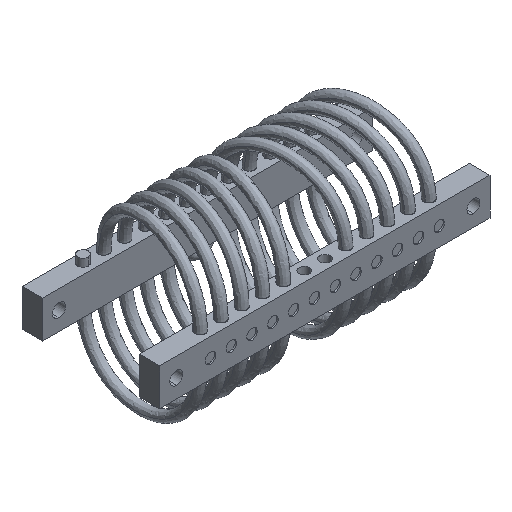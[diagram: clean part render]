
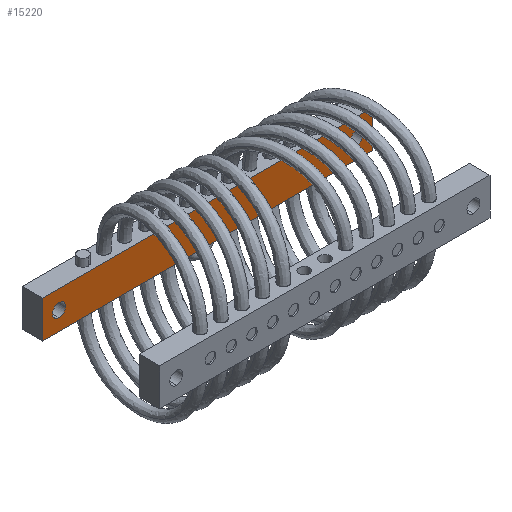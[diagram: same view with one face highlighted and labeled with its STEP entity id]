
A CAD part, isometric view. The second image highlights one B-rep face of the part: STEP entity #15220.
In plain terms, the highlighted planar face has unit normal (0, -1, 0).
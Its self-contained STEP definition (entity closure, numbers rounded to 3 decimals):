
#244 = AXIS2_PLACEMENT_3D ( 'NONE', #11301, #1003, #13001 ) ;
#262 = VERTEX_POINT ( 'NONE', #2598 ) ;
#418 = ORIENTED_EDGE ( 'NONE', *, *, #2057, .T. ) ;
#940 = FACE_OUTER_BOUND ( 'NONE', #12415, .T. ) ;
#1003 = DIRECTION ( 'NONE',  ( 0., 1., 0. ) ) ;
#1462 = EDGE_CURVE ( 'NONE', #1847, #2717, #13656, .T. ) ;
#1552 = EDGE_LOOP ( 'NONE', ( #16844, #418 ) ) ;
#1735 = VERTEX_POINT ( 'NONE', #16468 ) ;
#1764 = ORIENTED_EDGE ( 'NONE', *, *, #17929, .T. ) ;
#1847 = VERTEX_POINT ( 'NONE', #9549 ) ;
#2057 = EDGE_CURVE ( 'NONE', #19018, #262, #13375, .T. ) ;
#2533 = PLANE ( 'NONE',  #7488 ) ;
#2598 = CARTESIAN_POINT ( 'NONE',  ( 57.15, 18.6, 2.5 ) ) ;
#2717 = VERTEX_POINT ( 'NONE', #20186 ) ;
#2764 = ORIENTED_EDGE ( 'NONE', *, *, #19378, .T. ) ;
#3670 = ORIENTED_EDGE ( 'NONE', *, *, #17724, .T. ) ;
#4398 = CARTESIAN_POINT ( 'NONE',  ( 63.5, 18.6, -7.15 ) ) ;
#4616 = EDGE_CURVE ( 'NONE', #2717, #1735, #8136, .T. ) ;
#4751 = ORIENTED_EDGE ( 'NONE', *, *, #17348, .T. ) ;
#4944 = CARTESIAN_POINT ( 'NONE',  ( -57.15, 18.6, 0. ) ) ;
#4986 = AXIS2_PLACEMENT_3D ( 'NONE', #4944, #16934, #6686 ) ;
#5076 = VECTOR ( 'NONE', #9059, 1000. ) ;
#5293 = CARTESIAN_POINT ( 'NONE',  ( -57.15, 18.6, -2.5 ) ) ;
#5429 = CARTESIAN_POINT ( 'NONE',  ( 63.5, 18.6, 7.15 ) ) ;
#5598 = VECTOR ( 'NONE', #20497, 1000. ) ;
#6245 = DIRECTION ( 'NONE',  ( 0., 1., 0. ) ) ;
#6532 = DIRECTION ( 'NONE',  ( 0., 1., 0. ) ) ;
#6686 = DIRECTION ( 'NONE',  ( 0., 0., 1. ) ) ;
#6774 = VERTEX_POINT ( 'NONE', #5293 ) ;
#6885 = CIRCLE ( 'NONE', #12487, 2.5 ) ;
#7161 = DIRECTION ( 'NONE',  ( -1., 0., 0. ) ) ;
#7488 = AXIS2_PLACEMENT_3D ( 'NONE', #11099, #7707, #19706 ) ;
#7616 = CARTESIAN_POINT ( 'NONE',  ( 57.15, 18.6, -2.5 ) ) ;
#7707 = DIRECTION ( 'NONE',  ( 0., 1., 0. ) ) ;
#7785 = DIRECTION ( 'NONE',  ( -1., 0., 0. ) ) ;
#8136 = LINE ( 'NONE', #9592, #17247 ) ;
#8524 = LINE ( 'NONE', #5429, #12569 ) ;
#9059 = DIRECTION ( 'NONE',  ( 0., 0., -1. ) ) ;
#9544 = FACE_BOUND ( 'NONE', #1552, .T. ) ;
#9549 = CARTESIAN_POINT ( 'NONE',  ( 63.5, 18.6, 7.15 ) ) ;
#9592 = CARTESIAN_POINT ( 'NONE',  ( 63.5, 18.6, -7.15 ) ) ;
#10152 = LINE ( 'NONE', #17036, #5598 ) ;
#10390 = CIRCLE ( 'NONE', #244, 2.5 ) ;
#11099 = CARTESIAN_POINT ( 'NONE',  ( 63.5, 18.6, -7.15 ) ) ;
#11301 = CARTESIAN_POINT ( 'NONE',  ( -57.15, 18.6, 0. ) ) ;
#12415 = EDGE_LOOP ( 'NONE', ( #4751, #18964, #15745, #3670 ) ) ;
#12487 = AXIS2_PLACEMENT_3D ( 'NONE', #16491, #6245, #18203 ) ;
#12569 = VECTOR ( 'NONE', #7161, 1000. ) ;
#13001 = DIRECTION ( 'NONE',  ( 0., 0., 1. ) ) ;
#13375 = CIRCLE ( 'NONE', #21016, 2.5 ) ;
#13656 = LINE ( 'NONE', #4398, #5076 ) ;
#14078 = FACE_BOUND ( 'NONE', #16837, .T. ) ;
#14331 = VERTEX_POINT ( 'NONE', #17098 ) ;
#15220 = ADVANCED_FACE ( 'NONE', ( #9544, #14078, #940 ), #2533, .F. ) ;
#15745 = ORIENTED_EDGE ( 'NONE', *, *, #1462, .F. ) ;
#16043 = CIRCLE ( 'NONE', #4986, 2.5 ) ;
#16468 = CARTESIAN_POINT ( 'NONE',  ( -63.5, 18.6, -7.15 ) ) ;
#16491 = CARTESIAN_POINT ( 'NONE',  ( 57.15, 18.6, 0. ) ) ;
#16775 = CARTESIAN_POINT ( 'NONE',  ( 57.15, 18.6, 0. ) ) ;
#16837 = EDGE_LOOP ( 'NONE', ( #2764, #1764 ) ) ;
#16844 = ORIENTED_EDGE ( 'NONE', *, *, #20226, .T. ) ;
#16934 = DIRECTION ( 'NONE',  ( 0., 1., 0. ) ) ;
#17036 = CARTESIAN_POINT ( 'NONE',  ( -63.5, 18.6, -7.15 ) ) ;
#17098 = CARTESIAN_POINT ( 'NONE',  ( -57.15, 18.6, 2.5 ) ) ;
#17247 = VECTOR ( 'NONE', #7785, 1000. ) ;
#17348 = EDGE_CURVE ( 'NONE', #19002, #1735, #10152, .T. ) ;
#17724 = EDGE_CURVE ( 'NONE', #1847, #19002, #8524, .T. ) ;
#17867 = CARTESIAN_POINT ( 'NONE',  ( -63.5, 18.6, 7.15 ) ) ;
#17929 = EDGE_CURVE ( 'NONE', #6774, #14331, #16043, .T. ) ;
#18203 = DIRECTION ( 'NONE',  ( 0., 0., 1. ) ) ;
#18498 = DIRECTION ( 'NONE',  ( 0., 0., 1. ) ) ;
#18964 = ORIENTED_EDGE ( 'NONE', *, *, #4616, .F. ) ;
#19002 = VERTEX_POINT ( 'NONE', #17867 ) ;
#19018 = VERTEX_POINT ( 'NONE', #7616 ) ;
#19378 = EDGE_CURVE ( 'NONE', #14331, #6774, #10390, .T. ) ;
#19706 = DIRECTION ( 'NONE',  ( 0., 0., 1. ) ) ;
#20186 = CARTESIAN_POINT ( 'NONE',  ( 63.5, 18.6, -7.15 ) ) ;
#20226 = EDGE_CURVE ( 'NONE', #262, #19018, #6885, .T. ) ;
#20497 = DIRECTION ( 'NONE',  ( 0., 0., -1. ) ) ;
#21016 = AXIS2_PLACEMENT_3D ( 'NONE', #16775, #6532, #18498 ) ;
